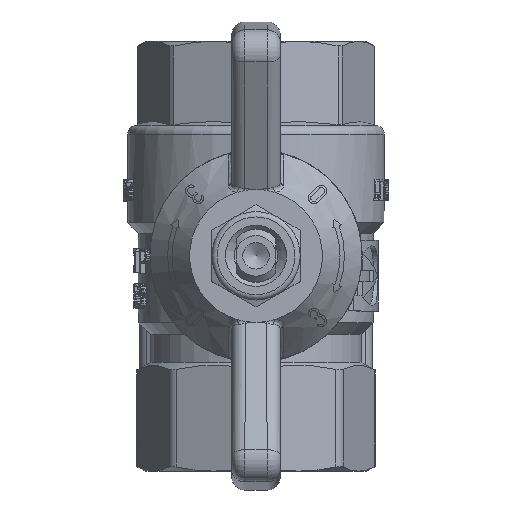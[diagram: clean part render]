
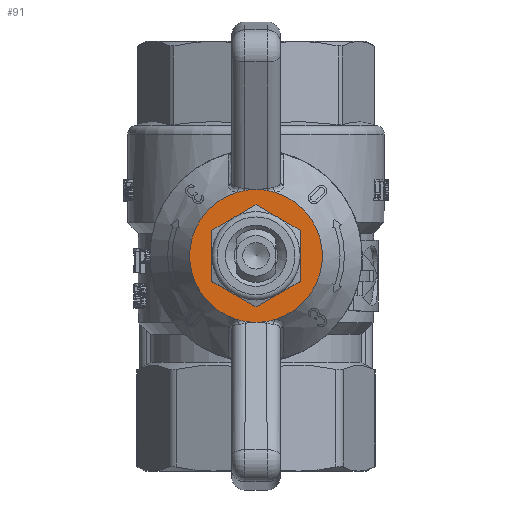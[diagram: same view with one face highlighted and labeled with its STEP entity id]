
A CAD part, top view. The second image highlights one B-rep face of the part: STEP entity #91.
In plain terms, the highlighted planar face has unit normal (0, 0, 1).
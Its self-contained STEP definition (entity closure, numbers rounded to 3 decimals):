
#91=ADVANCED_FACE('',(#2017,#2019),#2021,.F.);
#2017=FACE_BOUND('',#2018,.T.);
#2018=EDGE_LOOP('',(#15509,#15510,#15511,#15512,#15513,#15514,#15515,#15516,#15517,
#15518));
#2019=FACE_BOUND('',#2020,.T.);
#2020=EDGE_LOOP('',(#15519,#15520,#15521,#15522,#15523,#15524));
#2021=PLANE('',#2022);
#2022=AXIS2_PLACEMENT_3D('',#2023,#2024,#2025);
#2023=CARTESIAN_POINT('',(0.,0.,30.8));
#2024=DIRECTION('',(0.,0.,-1.));
#2025=DIRECTION('',(-1.,0.,0.));
#15509=ORIENTED_EDGE('',*,*,#25362,.F.);
#15510=ORIENTED_EDGE('',*,*,#25363,.F.);
#15511=ORIENTED_EDGE('',*,*,#25364,.F.);
#15512=ORIENTED_EDGE('',*,*,#25365,.F.);
#15513=ORIENTED_EDGE('',*,*,#25366,.F.);
#15514=ORIENTED_EDGE('',*,*,#25367,.F.);
#15515=ORIENTED_EDGE('',*,*,#25368,.F.);
#15516=ORIENTED_EDGE('',*,*,#25369,.F.);
#15517=ORIENTED_EDGE('',*,*,#25370,.F.);
#15518=ORIENTED_EDGE('',*,*,#25371,.F.);
#15519=ORIENTED_EDGE('',*,*,#25360,.F.);
#15520=ORIENTED_EDGE('',*,*,#25359,.F.);
#15521=ORIENTED_EDGE('',*,*,#25358,.F.);
#15522=ORIENTED_EDGE('',*,*,#25357,.F.);
#15523=ORIENTED_EDGE('',*,*,#25356,.F.);
#15524=ORIENTED_EDGE('',*,*,#25361,.F.);
#25356=EDGE_CURVE('',#30215,#30190,#30218,.F.);
#25357=EDGE_CURVE('',#30190,#30195,#30219,.F.);
#25358=EDGE_CURVE('',#30195,#30200,#30220,.F.);
#25359=EDGE_CURVE('',#30200,#30205,#30221,.F.);
#25360=EDGE_CURVE('',#30205,#30210,#30222,.F.);
#25361=EDGE_CURVE('',#30210,#30215,#30223,.F.);
#25362=EDGE_CURVE('',#30224,#30225,#30226,.F.);
#25363=EDGE_CURVE('',#30227,#30224,#30228,.T.);
#25364=EDGE_CURVE('',#30229,#30227,#30230,.T.);
#25365=EDGE_CURVE('',#30231,#30229,#30232,.F.);
#25366=EDGE_CURVE('',#30233,#30231,#30234,.F.);
#25367=EDGE_CURVE('',#30235,#30233,#30236,.F.);
#25368=EDGE_CURVE('',#30237,#30235,#30238,.T.);
#25369=EDGE_CURVE('',#30239,#30237,#30240,.T.);
#25370=EDGE_CURVE('',#30241,#30239,#30242,.T.);
#25371=EDGE_CURVE('',#30225,#30241,#30243,.T.);
#30190=VERTEX_POINT('',#38634);
#30195=VERTEX_POINT('',#38682);
#30200=VERTEX_POINT('',#38723);
#30205=VERTEX_POINT('',#38764);
#30210=VERTEX_POINT('',#38812);
#30215=VERTEX_POINT('',#38853);
#30218=CIRCLE('',#38890,5.);
#30219=CIRCLE('',#38894,5.);
#30220=CIRCLE('',#38898,5.);
#30221=CIRCLE('',#38902,5.);
#30222=CIRCLE('',#38906,5.);
#30223=CIRCLE('',#38910,5.);
#30224=VERTEX_POINT('',#38914);
#30225=VERTEX_POINT('',#38915);
#30226=CIRCLE('',#38916,7.5);
#30227=VERTEX_POINT('',#38920);
#30228=CIRCLE('',#38921,7.5);
#30229=VERTEX_POINT('',#38925);
#30230=CIRCLE('',#38926,7.5);
#30231=VERTEX_POINT('',#38930);
#30232=CIRCLE('',#38931,7.5);
#30233=VERTEX_POINT('',#38935);
#30234=CIRCLE('',#38936,7.5);
#30235=VERTEX_POINT('',#38940);
#30236=CIRCLE('',#38941,7.5);
#30237=VERTEX_POINT('',#38945);
#30238=CIRCLE('',#38946,7.5);
#30239=VERTEX_POINT('',#38950);
#30240=CIRCLE('',#38951,7.5);
#30241=VERTEX_POINT('',#38955);
#30242=CIRCLE('',#38956,7.5);
#30243=CIRCLE('',#38960,7.5);
#38634=CARTESIAN_POINT('',(5.,0.,30.8));
#38682=CARTESIAN_POINT('',(2.5,4.33,30.8));
#38723=CARTESIAN_POINT('',(-2.5,4.33,30.8));
#38764=CARTESIAN_POINT('',(-5.,0.,30.8));
#38812=CARTESIAN_POINT('',(-2.5,-4.33,30.8));
#38853=CARTESIAN_POINT('',(2.5,-4.33,30.8));
#38890=AXIS2_PLACEMENT_3D('',#38891,#38892,#38893);
#38891=CARTESIAN_POINT('',(0.,0.,30.8));
#38892=DIRECTION('',(0.,0.,-1.));
#38893=DIRECTION('',(1.,0.,0.));
#38894=AXIS2_PLACEMENT_3D('',#38895,#38896,#38897);
#38895=CARTESIAN_POINT('',(0.,0.,30.8));
#38896=DIRECTION('',(0.,0.,-1.));
#38897=DIRECTION('',(0.5,0.866,0.));
#38898=AXIS2_PLACEMENT_3D('',#38899,#38900,#38901);
#38899=CARTESIAN_POINT('',(0.,0.,30.8));
#38900=DIRECTION('',(0.,0.,-1.));
#38901=DIRECTION('',(-0.5,0.866,0.));
#38902=AXIS2_PLACEMENT_3D('',#38903,#38904,#38905);
#38903=CARTESIAN_POINT('',(0.,0.,30.8));
#38904=DIRECTION('',(0.,0.,-1.));
#38905=DIRECTION('',(-1.,0.,0.));
#38906=AXIS2_PLACEMENT_3D('',#38907,#38908,#38909);
#38907=CARTESIAN_POINT('',(0.,0.,30.8));
#38908=DIRECTION('',(0.,0.,-1.));
#38909=DIRECTION('',(-0.5,-0.866,0.));
#38910=AXIS2_PLACEMENT_3D('',#38911,#38912,#38913);
#38911=CARTESIAN_POINT('',(0.,0.,30.8));
#38912=DIRECTION('',(0.,0.,-1.));
#38913=DIRECTION('',(0.5,-0.866,0.));
#38914=CARTESIAN_POINT('',(2.155,-7.184,30.8));
#38915=CARTESIAN_POINT('',(1.261,-7.393,30.8));
#38916=AXIS2_PLACEMENT_3D('',#38917,#38918,#38919);
#38917=CARTESIAN_POINT('',(0.,0.,30.8));
#38918=DIRECTION('',(0.,0.,1.));
#38919=DIRECTION('',(0.167,-0.986,0.));
#38920=CARTESIAN_POINT('',(2.155,7.184,30.8));
#38921=AXIS2_PLACEMENT_3D('',#38922,#38923,#38924);
#38922=CARTESIAN_POINT('',(0.,0.,30.8));
#38923=DIRECTION('',(0.,0.,-1.));
#38924=DIRECTION('',(0.287,0.958,0.));
#38925=CARTESIAN_POINT('',(1.252,7.395,30.8));
#38926=AXIS2_PLACEMENT_3D('',#38927,#38928,#38929);
#38927=CARTESIAN_POINT('',(0.,0.,30.8));
#38928=DIRECTION('',(0.,0.,-1.));
#38929=DIRECTION('',(0.167,0.986,0.));
#38930=CARTESIAN_POINT('',(0.,7.5,30.8));
#38931=AXIS2_PLACEMENT_3D('',#38932,#38933,#38934);
#38932=CARTESIAN_POINT('',(0.,0.,30.8));
#38933=DIRECTION('',(0.,0.,1.));
#38934=DIRECTION('',(0.167,0.986,0.));
#38935=CARTESIAN_POINT('',(-1.252,7.395,30.8));
#38936=AXIS2_PLACEMENT_3D('',#38937,#38938,#38939);
#38937=CARTESIAN_POINT('',(0.,0.,30.8));
#38938=DIRECTION('',(0.,0.,1.));
#38939=DIRECTION('',(0.,1.,0.));
#38940=CARTESIAN_POINT('',(-2.155,7.184,30.8));
#38941=AXIS2_PLACEMENT_3D('',#38942,#38943,#38944);
#38942=CARTESIAN_POINT('',(0.,0.,30.8));
#38943=DIRECTION('',(0.,0.,1.));
#38944=DIRECTION('',(-0.167,0.986,0.));
#38945=CARTESIAN_POINT('',(-2.155,-7.184,30.8));
#38946=AXIS2_PLACEMENT_3D('',#38947,#38948,#38949);
#38947=CARTESIAN_POINT('',(0.,0.,30.8));
#38948=DIRECTION('',(0.,0.,-1.));
#38949=DIRECTION('',(-0.287,-0.958,0.));
#38950=CARTESIAN_POINT('',(-1.261,-7.393,30.8));
#38951=AXIS2_PLACEMENT_3D('',#38952,#38953,#38954);
#38952=CARTESIAN_POINT('',(0.,0.,30.8));
#38953=DIRECTION('',(0.,0.,-1.));
#38954=DIRECTION('',(-0.167,-0.986,0.));
#38955=CARTESIAN_POINT('',(0.,-7.5,30.8));
#38956=AXIS2_PLACEMENT_3D('',#38957,#38958,#38959);
#38957=CARTESIAN_POINT('',(0.,0.,30.8));
#38958=DIRECTION('',(0.,0.,-1.));
#38959=DIRECTION('',(0.,-1.,0.));
#38960=AXIS2_PLACEMENT_3D('',#38961,#38962,#38963);
#38961=CARTESIAN_POINT('',(0.,0.,30.8));
#38962=DIRECTION('',(0.,0.,-1.));
#38963=DIRECTION('',(0.174,-0.985,0.));
